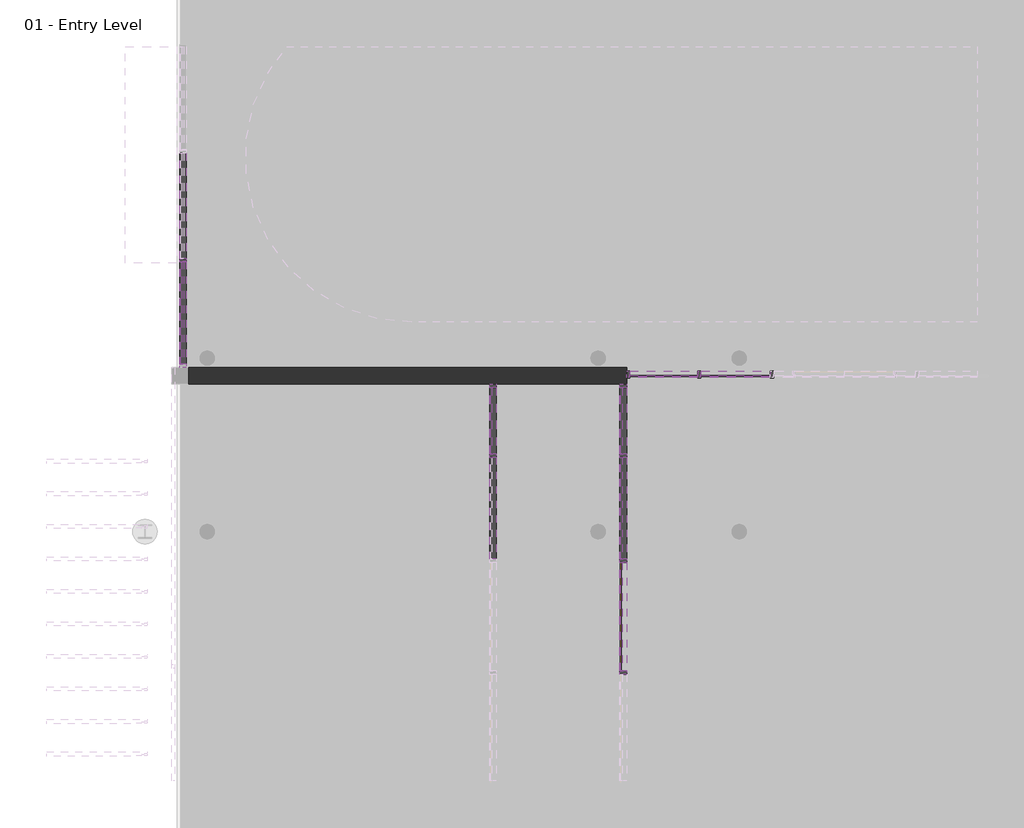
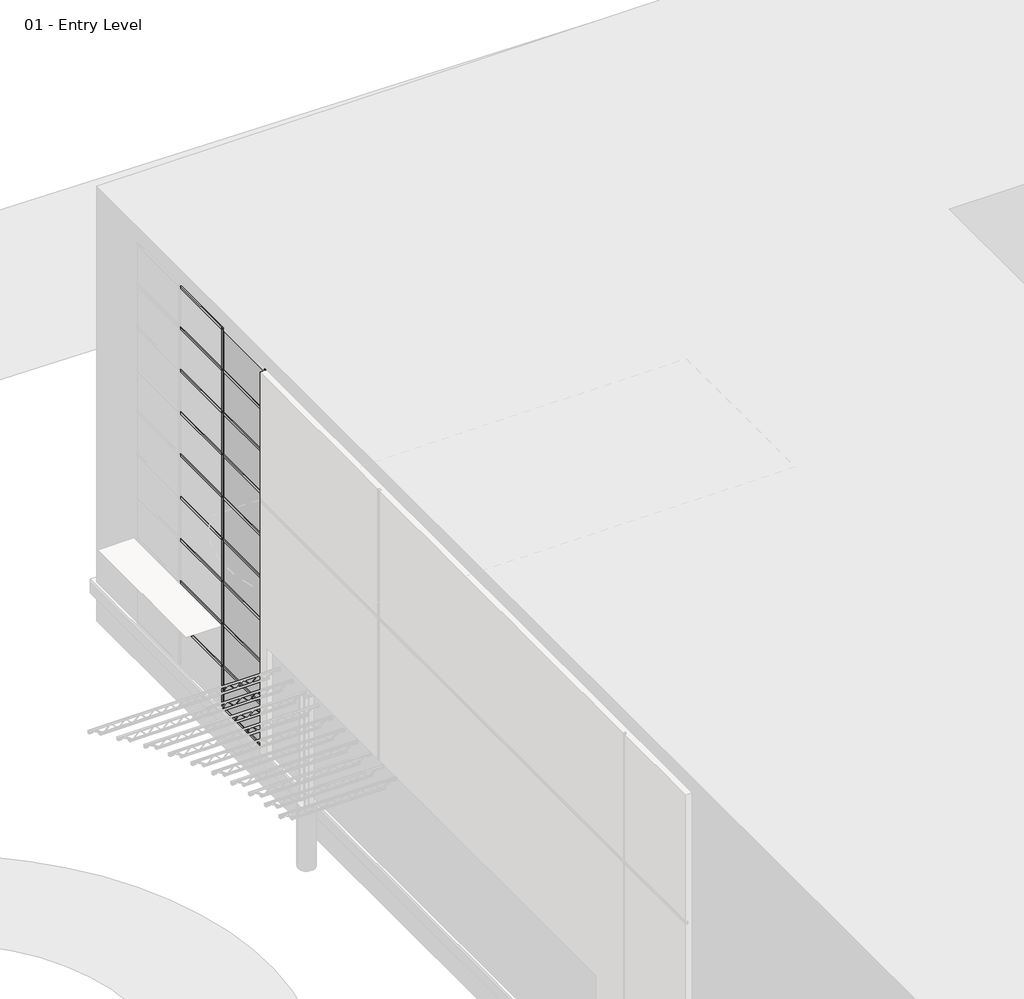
# One storey, part 23 of 35: 92 members, 24 plates, 1 door, 1 wall.
"""IFC4 building model written with IfcOpenShell, lengths in millimetres."""

from ifc_helpers import new_model, si_unit, origin, place, context, project, spatial, faceted_brep, transform, mapped, element, save
from components import curtain_wall_dbl_glass_curtain_wall_dbl_glass_d7d74fe3, member_2b49869a, member_75074519, member_18e22e2d, member_9193c932, member_391b434c, member_9e90ae50, member_71eb4692, member_a1da5be3, member_995c57f6, member_4a2c27e2, member_6186cc23, member_5d67b9fc, member_a50b3cda, member_c327c56d, member_0a82c195, member_a6658832, member_b37ae9b7, member_f95d5bf5, member_ec52078f, member_cc8ff548, member_d5dacedd, member_7bb4584e, member_8f0333f2, member_bc6ee0d3, member_2fd083e0, member_d74167de, system_panel_glazed_652821f2, system_panel_glazed_968bda60, system_panel_glazed_6afda307, system_panel_glazed_f5a86650, system_panel_glazed_d3a4a7cd, system_panel_glazed_76019dd7, system_panel_glazed_96e4dd87, system_panel_glazed_56110c51, system_panel_glazed_ea10912d, system_panel_glazed_266ebcb8, system_panel_glazed_6ed60089, system_panel_glazed_c092dd15, system_panel_glazed_f97b1054, system_panel_glazed_06504d0b, system_panel_solid_8d134956, system_panel_solid_ac74ffd1

model = new_model("IFC4")

# Units and contexts
model_context = context("Model", 3, world=origin())
ifc_project = project(units=[si_unit("LENGTHUNIT", "METRE", prefix="MILLI")], contexts=[model_context])

# Site, building, storey
site = spatial("IfcSite", under=ifc_project)
building = spatial("IfcBuilding", under=site)
storey = spatial("IfcBuildingStorey", under=building, Name="01 - Entry Level", Elevation=0.0)

# Door
placement = place(None, origin())
curtain_wall_dbl_glass_curtain_wall_dbl_glass_shape = curtain_wall_dbl_glass_curtain_wall_dbl_glass_d7d74fe3(model_context)
element("IfcDoor", 1, ObjectType="Curtain Wall Dbl Glass : Curtain Wall Dbl Glass", at=placement, inside=storey, context=model_context, shape_type="MappedRepresentation", body=[
    mapped(curtain_wall_dbl_glass_curtain_wall_dbl_glass_shape, transform((8421.0207476, 41071.725, 0.0), x_axis=(0.0, 1.0, 0.0), y_axis=(-1.0, 0.0, 0.0), z_axis=(0.0, 0.0, 1.0))),
])

# Members
member_shape = member_2b49869a(model_context)
element("IfcMember", 2, ObjectType="Rectangular Mullion : 2.5\" x 5\" rectangular", at=placement, inside=storey, context=model_context, shape_type="MappedRepresentation", body=[
    mapped(member_shape, transform((178.7207476, 47748.75, 9753.6), x_axis=(0.0, -1.0, 0.0), y_axis=(-1.0, 0.0, 0.0), z_axis=(0.0, 0.0, -1.0))),
])
member_2_shape = member_75074519(model_context)
element("IfcMember", 3, ObjectType="Rectangular Mullion : 2.5\" x 5\" rectangular", at=placement, inside=storey, context=model_context, shape_type="MappedRepresentation", body=[
    mapped(member_2_shape, transform((178.7207476, 45735.8, 9753.6), x_axis=(0.0, -1.0, 0.0), y_axis=(-1.0, 0.0, 0.0), z_axis=(0.0, 0.0, -1.0))),
])
member_3_shape = member_18e22e2d(model_context)
element("IfcMember", 4, ObjectType="Rectangular Mullion : 2.5\" x 5\" rectangular", at=placement, inside=storey, context=model_context, shape_type="MappedRepresentation", body=[
    mapped(member_3_shape, transform((11204.1350333, 45608.8, 2438.4), x_axis=(-1.0, 0.0, 0.0), y_axis=(0.0, 1.0, 0.0), z_axis=(0.0, 0.0, -1.0))),
])
element("IfcMember", 5, ObjectType="Rectangular Mullion : 2.5\" x 5\" rectangular", at=placement, inside=storey, context=model_context, shape_type="MappedRepresentation", body=[
    mapped(member_3_shape, transform((9844.3278905, 45608.8, 2438.4), x_axis=(-1.0, 0.0, 0.0), y_axis=(0.0, 1.0, 0.0), z_axis=(0.0, 0.0, -1.0))),
])
element("IfcMember", 6, ObjectType="Rectangular Mullion : 2.5\" x 5\" rectangular", at=placement, inside=storey, context=model_context, shape_type="MappedRepresentation", body=[
    mapped(member_3_shape, transform((5982.6207476, 44087.975, 2438.4), x_axis=(0.0, 1.0, 0.0), y_axis=(1.0, 0.0, 0.0), z_axis=(0.0, 0.0, -1.0))),
])
element("IfcMember", 7, ObjectType="Rectangular Mullion : 2.5\" x 5\" rectangular", at=placement, inside=storey, context=model_context, shape_type="MappedRepresentation", body=[
    mapped(member_3_shape, transform((8421.0207476, 40023.975, 2438.4), x_axis=(0.0, 1.0, 0.0), y_axis=(1.0, 0.0, 0.0), z_axis=(0.0, 0.0, -1.0))),
])
element("IfcMember", 8, ObjectType="Rectangular Mullion : 2.5\" x 5\" rectangular", at=placement, inside=storey, context=model_context, shape_type="MappedRepresentation", body=[
    mapped(member_3_shape, transform((8421.0207476, 42119.475, 2438.4), x_axis=(0.0, 1.0, 0.0), y_axis=(1.0, 0.0, 0.0), z_axis=(0.0, 0.0, -1.0))),
])
element("IfcMember", 9, ObjectType="Rectangular Mullion : 2.5\" x 5\" rectangular", at=placement, inside=storey, context=model_context, shape_type="MappedRepresentation", body=[
    mapped(member_3_shape, transform((8421.0207476, 44087.975, 2438.4), x_axis=(0.0, 1.0, 0.0), y_axis=(1.0, 0.0, 0.0), z_axis=(0.0, 0.0, -1.0))),
])
member_4_shape = member_9193c932(model_context)
element("IfcMember", 10, ObjectType="Rectangular Mullion : 2.5\" x 5\" rectangular", at=placement, inside=storey, context=model_context, shape_type="MappedRepresentation", body=[
    mapped(member_4_shape, transform((8484.5207476, 45608.8, 2438.4), x_axis=(-1.0, 0.0, 0.0), y_axis=(0.0, 1.0, 0.0), z_axis=(0.0, 0.0, -1.0))),
])
element("IfcMember", 11, ObjectType="Rectangular Mullion : 2.5\" x 5\" rectangular", at=placement, inside=storey, context=model_context, shape_type="MappedRepresentation", body=[
    mapped(member_4_shape, transform((5982.6207476, 45427.825, 2438.4), x_axis=(0.0, 1.0, 0.0), y_axis=(1.0, 0.0, 0.0), z_axis=(0.0, 0.0, -1.0))),
])
element("IfcMember", 12, ObjectType="Rectangular Mullion : 2.5\" x 5\" rectangular", at=placement, inside=storey, context=model_context, shape_type="MappedRepresentation", body=[
    mapped(member_4_shape, transform((8421.0207476, 45427.825, 2438.4), x_axis=(0.0, 1.0, 0.0), y_axis=(1.0, 0.0, 0.0), z_axis=(0.0, 0.0, -1.0))),
])
member_5_shape = member_391b434c(model_context)
element("IfcMember", 13, ObjectType="Rectangular Mullion : 2.5\" x 5\" rectangular", at=placement, inside=storey, context=model_context, shape_type="MappedRepresentation", body=[
    mapped(member_5_shape, transform((178.7207476, 47780.5, 10972.8), x_axis=(0.0, 0.0, 1.0), y_axis=(-1.0, 0.0, 0.0), z_axis=(0.0, -1.0, 0.0))),
])
member_6_shape = member_9e90ae50(model_context)
element("IfcMember", 14, ObjectType="Rectangular Mullion : 2.5\" x 5\" rectangular", at=placement, inside=storey, context=model_context, shape_type="MappedRepresentation", body=[
    mapped(member_6_shape, transform((178.7207476, 47780.5, 1219.2), x_axis=(0.0, 0.0, 1.0), y_axis=(-1.0, 0.0, 0.0), z_axis=(0.0, -1.0, 0.0))),
])
element("IfcMember", 15, ObjectType="Rectangular Mullion : 2.5\" x 5\" rectangular", at=placement, inside=storey, context=model_context, shape_type="MappedRepresentation", body=[
    mapped(member_6_shape, transform((178.7207476, 47780.5, 2438.4), x_axis=(0.0, 0.0, 1.0), y_axis=(-1.0, 0.0, 0.0), z_axis=(0.0, -1.0, 0.0))),
])
element("IfcMember", 16, ObjectType="Rectangular Mullion : 2.5\" x 5\" rectangular", at=placement, inside=storey, context=model_context, shape_type="MappedRepresentation", body=[
    mapped(member_6_shape, transform((178.7207476, 47780.5, 3657.6), x_axis=(0.0, 0.0, 1.0), y_axis=(-1.0, 0.0, 0.0), z_axis=(0.0, -1.0, 0.0))),
])
element("IfcMember", 17, ObjectType="Rectangular Mullion : 2.5\" x 5\" rectangular", at=placement, inside=storey, context=model_context, shape_type="MappedRepresentation", body=[
    mapped(member_6_shape, transform((178.7207476, 47780.5, 4876.8), x_axis=(0.0, 0.0, 1.0), y_axis=(-1.0, 0.0, 0.0), z_axis=(0.0, -1.0, 0.0))),
])
element("IfcMember", 18, ObjectType="Rectangular Mullion : 2.5\" x 5\" rectangular", at=placement, inside=storey, context=model_context, shape_type="MappedRepresentation", body=[
    mapped(member_6_shape, transform((178.7207476, 47780.5, 6096.0), x_axis=(0.0, 0.0, 1.0), y_axis=(-1.0, 0.0, 0.0), z_axis=(0.0, -1.0, 0.0))),
])
element("IfcMember", 19, ObjectType="Rectangular Mullion : 2.5\" x 5\" rectangular", at=placement, inside=storey, context=model_context, shape_type="MappedRepresentation", body=[
    mapped(member_6_shape, transform((178.7207476, 47780.5, 7315.2), x_axis=(0.0, 0.0, 1.0), y_axis=(-1.0, 0.0, 0.0), z_axis=(0.0, -1.0, 0.0))),
])
element("IfcMember", 20, ObjectType="Rectangular Mullion : 2.5\" x 5\" rectangular", at=placement, inside=storey, context=model_context, shape_type="MappedRepresentation", body=[
    mapped(member_6_shape, transform((178.7207476, 47780.5, 8534.4), x_axis=(0.0, 0.0, 1.0), y_axis=(-1.0, 0.0, 0.0), z_axis=(0.0, -1.0, 0.0))),
])
element("IfcMember", 21, ObjectType="Rectangular Mullion : 2.5\" x 5\" rectangular", at=placement, inside=storey, context=model_context, shape_type="MappedRepresentation", body=[
    mapped(member_6_shape, transform((178.7207476, 47780.5, 9753.6), x_axis=(0.0, 0.0, 1.0), y_axis=(-1.0, 0.0, 0.0), z_axis=(0.0, -1.0, 0.0))),
])
element("IfcMember", 22, ObjectType="Rectangular Mullion : 2.5\" x 5\" rectangular", at=placement, inside=storey, context=model_context, shape_type="MappedRepresentation", body=[
    mapped(member_shape, transform((178.7207476, 47748.75, 0.0), x_axis=(0.0, -1.0, 0.0), y_axis=(-1.0, 0.0, 0.0), z_axis=(0.0, 0.0, -1.0))),
])
element("IfcMember", 23, ObjectType="Rectangular Mullion : 2.5\" x 5\" rectangular", at=placement, inside=storey, context=model_context, shape_type="MappedRepresentation", body=[
    mapped(member_shape, transform((178.7207476, 47748.75, 1219.2), x_axis=(0.0, -1.0, 0.0), y_axis=(-1.0, 0.0, 0.0), z_axis=(0.0, 0.0, -1.0))),
])
element("IfcMember", 24, ObjectType="Rectangular Mullion : 2.5\" x 5\" rectangular", at=placement, inside=storey, context=model_context, shape_type="MappedRepresentation", body=[
    mapped(member_shape, transform((178.7207476, 47748.75, 2438.4), x_axis=(0.0, -1.0, 0.0), y_axis=(-1.0, 0.0, 0.0), z_axis=(0.0, 0.0, -1.0))),
])
element("IfcMember", 25, ObjectType="Rectangular Mullion : 2.5\" x 5\" rectangular", at=placement, inside=storey, context=model_context, shape_type="MappedRepresentation", body=[
    mapped(member_shape, transform((178.7207476, 47748.75, 3657.6), x_axis=(0.0, -1.0, 0.0), y_axis=(-1.0, 0.0, 0.0), z_axis=(0.0, 0.0, -1.0))),
])
element("IfcMember", 26, ObjectType="Rectangular Mullion : 2.5\" x 5\" rectangular", at=placement, inside=storey, context=model_context, shape_type="MappedRepresentation", body=[
    mapped(member_shape, transform((178.7207476, 47748.75, 4876.8), x_axis=(0.0, -1.0, 0.0), y_axis=(-1.0, 0.0, 0.0), z_axis=(0.0, 0.0, -1.0))),
])
element("IfcMember", 27, ObjectType="Rectangular Mullion : 2.5\" x 5\" rectangular", at=placement, inside=storey, context=model_context, shape_type="MappedRepresentation", body=[
    mapped(member_shape, transform((178.7207476, 47748.75, 6096.0), x_axis=(0.0, -1.0, 0.0), y_axis=(-1.0, 0.0, 0.0), z_axis=(0.0, 0.0, -1.0))),
])
element("IfcMember", 28, ObjectType="Rectangular Mullion : 2.5\" x 5\" rectangular", at=placement, inside=storey, context=model_context, shape_type="MappedRepresentation", body=[
    mapped(member_shape, transform((178.7207476, 47748.75, 7315.2), x_axis=(0.0, -1.0, 0.0), y_axis=(-1.0, 0.0, 0.0), z_axis=(0.0, 0.0, -1.0))),
])
element("IfcMember", 29, ObjectType="Rectangular Mullion : 2.5\" x 5\" rectangular", at=placement, inside=storey, context=model_context, shape_type="MappedRepresentation", body=[
    mapped(member_shape, transform((178.7207476, 47748.75, 8534.4), x_axis=(0.0, -1.0, 0.0), y_axis=(-1.0, 0.0, 0.0), z_axis=(0.0, 0.0, -1.0))),
])
element("IfcMember", 30, ObjectType="Rectangular Mullion : 2.5\" x 5\" rectangular", at=placement, inside=storey, context=model_context, shape_type="MappedRepresentation", body=[
    mapped(member_shape, transform((5982.6207476, 44087.975, 0.0), x_axis=(0.0, 1.0, 0.0), y_axis=(1.0, 0.0, 0.0), z_axis=(0.0, 0.0, -1.0))),
])
element("IfcMember", 31, ObjectType="Rectangular Mullion : 2.5\" x 5\" rectangular", at=placement, inside=storey, context=model_context, shape_type="MappedRepresentation", body=[
    mapped(member_shape, transform((8421.0207476, 42119.475, 0.0), x_axis=(0.0, 1.0, 0.0), y_axis=(1.0, 0.0, 0.0), z_axis=(0.0, 0.0, -1.0))),
])
element("IfcMember", 32, ObjectType="Rectangular Mullion : 2.5\" x 5\" rectangular", at=placement, inside=storey, context=model_context, shape_type="MappedRepresentation", body=[
    mapped(member_shape, transform((8421.0207476, 44087.975, 0.0), x_axis=(0.0, 1.0, 0.0), y_axis=(1.0, 0.0, 0.0), z_axis=(0.0, 0.0, -1.0))),
])
element("IfcMember", 33, ObjectType="Rectangular Mullion : 2.5\" x 5\" rectangular", at=placement, inside=storey, context=model_context, shape_type="MappedRepresentation", body=[
    mapped(member_2_shape, transform((5982.6207476, 45427.825, 0.0), x_axis=(0.0, 1.0, 0.0), y_axis=(1.0, 0.0, 0.0), z_axis=(0.0, 0.0, -1.0))),
])
element("IfcMember", 34, ObjectType="Rectangular Mullion : 2.5\" x 5\" rectangular", at=placement, inside=storey, context=model_context, shape_type="MappedRepresentation", body=[
    mapped(member_2_shape, transform((8421.0207476, 45427.825, 0.0), x_axis=(0.0, 1.0, 0.0), y_axis=(1.0, 0.0, 0.0), z_axis=(0.0, 0.0, -1.0))),
])
element("IfcMember", 35, ObjectType="Rectangular Mullion : 2.5\" x 5\" rectangular", at=placement, inside=storey, context=model_context, shape_type="MappedRepresentation", body=[
    mapped(member_2_shape, transform((178.7207476, 45735.8, 2438.4), x_axis=(0.0, -1.0, 0.0), y_axis=(-1.0, 0.0, 0.0), z_axis=(0.0, 0.0, -1.0))),
])
element("IfcMember", 36, ObjectType="Rectangular Mullion : 2.5\" x 5\" rectangular", at=placement, inside=storey, context=model_context, shape_type="MappedRepresentation", body=[
    mapped(member_2_shape, transform((178.7207476, 45735.8, 3657.6), x_axis=(0.0, -1.0, 0.0), y_axis=(-1.0, 0.0, 0.0), z_axis=(0.0, 0.0, -1.0))),
])
element("IfcMember", 37, ObjectType="Rectangular Mullion : 2.5\" x 5\" rectangular", at=placement, inside=storey, context=model_context, shape_type="MappedRepresentation", body=[
    mapped(member_2_shape, transform((178.7207476, 45735.8, 4876.8), x_axis=(0.0, -1.0, 0.0), y_axis=(-1.0, 0.0, 0.0), z_axis=(0.0, 0.0, -1.0))),
])
element("IfcMember", 38, ObjectType="Rectangular Mullion : 2.5\" x 5\" rectangular", at=placement, inside=storey, context=model_context, shape_type="MappedRepresentation", body=[
    mapped(member_2_shape, transform((178.7207476, 45735.8, 6096.0), x_axis=(0.0, -1.0, 0.0), y_axis=(-1.0, 0.0, 0.0), z_axis=(0.0, 0.0, -1.0))),
])
element("IfcMember", 39, ObjectType="Rectangular Mullion : 2.5\" x 5\" rectangular", at=placement, inside=storey, context=model_context, shape_type="MappedRepresentation", body=[
    mapped(member_2_shape, transform((178.7207476, 45735.8, 7315.2), x_axis=(0.0, -1.0, 0.0), y_axis=(-1.0, 0.0, 0.0), z_axis=(0.0, 0.0, -1.0))),
])
element("IfcMember", 40, ObjectType="Rectangular Mullion : 2.5\" x 5\" rectangular", at=placement, inside=storey, context=model_context, shape_type="MappedRepresentation", body=[
    mapped(member_2_shape, transform((178.7207476, 45735.8, 8534.4), x_axis=(0.0, -1.0, 0.0), y_axis=(-1.0, 0.0, 0.0), z_axis=(0.0, 0.0, -1.0))),
])
element("IfcMember", 41, ObjectType="Rectangular Mullion : 2.5\" x 5\" rectangular", at=placement, inside=storey, context=model_context, shape_type="MappedRepresentation", body=[
    mapped(member_shape, transform((8421.0207476, 40023.975, 0.0), x_axis=(0.0, 1.0, 0.0), y_axis=(1.0, 0.0, 0.0), z_axis=(0.0, 0.0, -1.0))),
])
member_7_shape = member_71eb4692(model_context)
element("IfcMember", 42, ObjectType="Rectangular Mullion : 2.5\" x 5\" rectangular", at=placement, inside=storey, context=model_context, shape_type="MappedRepresentation", body=[
    mapped(member_7_shape, transform((5982.6207476, 45364.325, 3403.6), x_axis=(0.0, 0.0, 1.0), y_axis=(1.0, 0.0, 0.0), z_axis=(0.0, 1.0, 0.0))),
])
element("IfcMember", 43, ObjectType="Rectangular Mullion : 2.5\" x 5\" rectangular", at=placement, inside=storey, context=model_context, shape_type="MappedRepresentation", body=[
    mapped(member_7_shape, transform((8421.0207476, 45364.325, 3403.6), x_axis=(0.0, 0.0, 1.0), y_axis=(1.0, 0.0, 0.0), z_axis=(0.0, 1.0, 0.0))),
])
element("IfcMember", 44, ObjectType="Rectangular Mullion : 2.5\" x 5\" rectangular", at=placement, inside=storey, context=model_context, shape_type="MappedRepresentation", body=[
    mapped(member_7_shape, transform((5982.6207476, 44119.725, 0.0), x_axis=(0.0, 0.0, -1.0), y_axis=(1.0, 0.0, 0.0), z_axis=(0.0, -1.0, 0.0))),
])
element("IfcMember", 45, ObjectType="Rectangular Mullion : 2.5\" x 5\" rectangular", at=placement, inside=storey, context=model_context, shape_type="MappedRepresentation", body=[
    mapped(member_7_shape, transform((8421.0207476, 44119.725, 0.0), x_axis=(0.0, 0.0, -1.0), y_axis=(1.0, 0.0, 0.0), z_axis=(0.0, -1.0, 0.0))),
])
member_8_shape = member_a1da5be3(model_context)
element("IfcMember", 46, ObjectType="Rectangular Mullion : 2.5\" x 5\" rectangular", at=placement, inside=storey, context=model_context, shape_type="MappedRepresentation", body=[
    mapped(member_8_shape, transform((5982.6207476, 45364.325, 1219.2), x_axis=(0.0, 0.0, 1.0), y_axis=(1.0, 0.0, 0.0), z_axis=(0.0, 1.0, 0.0))),
])
element("IfcMember", 47, ObjectType="Rectangular Mullion : 2.5\" x 5\" rectangular", at=placement, inside=storey, context=model_context, shape_type="MappedRepresentation", body=[
    mapped(member_8_shape, transform((5982.6207476, 45364.325, 2438.4), x_axis=(0.0, 0.0, 1.0), y_axis=(1.0, 0.0, 0.0), z_axis=(0.0, 1.0, 0.0))),
])
element("IfcMember", 48, ObjectType="Rectangular Mullion : 2.5\" x 5\" rectangular", at=placement, inside=storey, context=model_context, shape_type="MappedRepresentation", body=[
    mapped(member_8_shape, transform((8421.0207476, 45364.325, 1219.2), x_axis=(0.0, 0.0, 1.0), y_axis=(1.0, 0.0, 0.0), z_axis=(0.0, 1.0, 0.0))),
])
element("IfcMember", 49, ObjectType="Rectangular Mullion : 2.5\" x 5\" rectangular", at=placement, inside=storey, context=model_context, shape_type="MappedRepresentation", body=[
    mapped(member_8_shape, transform((8421.0207476, 45364.325, 2438.4), x_axis=(0.0, 0.0, 1.0), y_axis=(1.0, 0.0, 0.0), z_axis=(0.0, 1.0, 0.0))),
])
member_9_shape = member_995c57f6(model_context)
element("IfcMember", 50, ObjectType="Rectangular Mullion : 2.5\" x 5\" rectangular", at=placement, inside=storey, context=model_context, shape_type="MappedRepresentation", body=[
    mapped(member_9_shape, transform((178.7207476, 47717.0, 0.0), x_axis=(0.0, 0.0, -1.0), y_axis=(-1.0, 0.0, 0.0), z_axis=(0.0, 1.0, 0.0))),
])
member_10_shape = member_4a2c27e2(model_context)
element("IfcMember", 51, ObjectType="Rectangular Mullion : 2.5\" x 5\" rectangular", at=placement, inside=storey, context=model_context, shape_type="MappedRepresentation", body=[
    mapped(member_10_shape, transform((178.7207476, 45799.3, 1219.2), x_axis=(0.0, 0.0, 1.0), y_axis=(-1.0, 0.0, 0.0), z_axis=(0.0, -1.0, 0.0))),
])
element("IfcMember", 52, ObjectType="Rectangular Mullion : 2.5\" x 5\" rectangular", at=placement, inside=storey, context=model_context, shape_type="MappedRepresentation", body=[
    mapped(member_10_shape, transform((178.7207476, 45799.3, 2438.4), x_axis=(0.0, 0.0, 1.0), y_axis=(-1.0, 0.0, 0.0), z_axis=(0.0, -1.0, 0.0))),
])
element("IfcMember", 53, ObjectType="Rectangular Mullion : 2.5\" x 5\" rectangular", at=placement, inside=storey, context=model_context, shape_type="MappedRepresentation", body=[
    mapped(member_10_shape, transform((178.7207476, 45799.3, 3657.6), x_axis=(0.0, 0.0, 1.0), y_axis=(-1.0, 0.0, 0.0), z_axis=(0.0, -1.0, 0.0))),
])
element("IfcMember", 54, ObjectType="Rectangular Mullion : 2.5\" x 5\" rectangular", at=placement, inside=storey, context=model_context, shape_type="MappedRepresentation", body=[
    mapped(member_10_shape, transform((178.7207476, 45799.3, 4876.8), x_axis=(0.0, 0.0, 1.0), y_axis=(-1.0, 0.0, 0.0), z_axis=(0.0, -1.0, 0.0))),
])
element("IfcMember", 55, ObjectType="Rectangular Mullion : 2.5\" x 5\" rectangular", at=placement, inside=storey, context=model_context, shape_type="MappedRepresentation", body=[
    mapped(member_10_shape, transform((178.7207476, 45799.3, 6096.0), x_axis=(0.0, 0.0, 1.0), y_axis=(-1.0, 0.0, 0.0), z_axis=(0.0, -1.0, 0.0))),
])
element("IfcMember", 56, ObjectType="Rectangular Mullion : 2.5\" x 5\" rectangular", at=placement, inside=storey, context=model_context, shape_type="MappedRepresentation", body=[
    mapped(member_10_shape, transform((178.7207476, 45799.3, 7315.2), x_axis=(0.0, 0.0, 1.0), y_axis=(-1.0, 0.0, 0.0), z_axis=(0.0, -1.0, 0.0))),
])
element("IfcMember", 57, ObjectType="Rectangular Mullion : 2.5\" x 5\" rectangular", at=placement, inside=storey, context=model_context, shape_type="MappedRepresentation", body=[
    mapped(member_10_shape, transform((178.7207476, 45799.3, 8534.4), x_axis=(0.0, 0.0, 1.0), y_axis=(-1.0, 0.0, 0.0), z_axis=(0.0, -1.0, 0.0))),
])
element("IfcMember", 58, ObjectType="Rectangular Mullion : 2.5\" x 5\" rectangular", at=placement, inside=storey, context=model_context, shape_type="MappedRepresentation", body=[
    mapped(member_10_shape, transform((178.7207476, 45799.3, 9753.6), x_axis=(0.0, 0.0, 1.0), y_axis=(-1.0, 0.0, 0.0), z_axis=(0.0, -1.0, 0.0))),
])
member_11_shape = member_6186cc23(model_context)
element("IfcMember", 59, ObjectType="Rectangular Mullion : 2.5\" x 5\" rectangular", at=placement, inside=storey, context=model_context, shape_type="MappedRepresentation", body=[
    mapped(member_11_shape, transform((11204.1350333, 45608.8, 0.0), x_axis=(-1.0, 0.0, 0.0), y_axis=(0.0, 1.0, 0.0), z_axis=(0.0, 0.0, -1.0))),
])
member_12_shape = member_5d67b9fc(model_context)
element("IfcMember", 60, ObjectType="Rectangular Mullion : 2.5\" x 5\" rectangular", at=placement, inside=storey, context=model_context, shape_type="MappedRepresentation", body=[
    mapped(member_12_shape, transform((8421.0207476, 40023.975, 2165.35), x_axis=(0.0, 1.0, 0.0), y_axis=(1.0, 0.0, 0.0), z_axis=(0.0, 0.0, -1.0))),
])
element("IfcMember", 61, ObjectType="Rectangular Mullion : 2.5\" x 5\" rectangular", at=placement, inside=storey, context=model_context, shape_type="MappedRepresentation", body=[
    mapped(member_12_shape, transform((8421.0207476, 42119.475, 2165.35), x_axis=(0.0, 1.0, 0.0), y_axis=(1.0, 0.0, 0.0), z_axis=(0.0, 0.0, -1.0))),
])
member_13_shape = member_a50b3cda(model_context)
element("IfcMember", 62, ObjectType="Rectangular Mullion : 2.5\" x 5\" rectangular", at=placement, inside=storey, context=model_context, shape_type="MappedRepresentation", body=[
    mapped(member_13_shape, transform((8484.5207476, 45608.8, 0.0), x_axis=(-1.0, 0.0, 0.0), y_axis=(0.0, 1.0, 0.0), z_axis=(0.0, 0.0, -1.0))),
])
member_14_shape = member_c327c56d(model_context)
element("IfcMember", 63, ObjectType="Rectangular Mullion : 2.5\" x 5\" rectangular", at=placement, inside=storey, context=model_context, shape_type="MappedRepresentation", body=[
    mapped(member_14_shape, transform((8484.5207476, 45608.8, 2165.35), x_axis=(-1.0, 0.0, 0.0), y_axis=(0.0, 1.0, 0.0), z_axis=(0.0, 0.0, -1.0))),
])
element("IfcMember", 64, ObjectType="Rectangular Mullion : 2.5\" x 5\" rectangular", at=placement, inside=storey, context=model_context, shape_type="MappedRepresentation", body=[
    mapped(member_14_shape, transform((5982.6207476, 45427.825, 2165.35), x_axis=(0.0, 1.0, 0.0), y_axis=(1.0, 0.0, 0.0), z_axis=(0.0, 0.0, -1.0))),
])
element("IfcMember", 65, ObjectType="Rectangular Mullion : 2.5\" x 5\" rectangular", at=placement, inside=storey, context=model_context, shape_type="MappedRepresentation", body=[
    mapped(member_14_shape, transform((8421.0207476, 45427.825, 2165.35), x_axis=(0.0, 1.0, 0.0), y_axis=(1.0, 0.0, 0.0), z_axis=(0.0, 0.0, -1.0))),
])
element("IfcMember", 66, ObjectType="Rectangular Mullion : 2.5\" x 5\" rectangular", at=placement, inside=storey, context=model_context, shape_type="MappedRepresentation", body=[
    mapped(member_11_shape, transform((9844.3278905, 45608.8, 0.0), x_axis=(-1.0, 0.0, 0.0), y_axis=(0.0, 1.0, 0.0), z_axis=(0.0, 0.0, -1.0))),
])
element("IfcMember", 67, ObjectType="Rectangular Mullion : 2.5\" x 5\" rectangular", at=placement, inside=storey, context=model_context, shape_type="MappedRepresentation", body=[
    mapped(member_12_shape, transform((9844.3278905, 45608.8, 2165.35), x_axis=(-1.0, 0.0, 0.0), y_axis=(0.0, 1.0, 0.0), z_axis=(0.0, 0.0, -1.0))),
])
element("IfcMember", 68, ObjectType="Rectangular Mullion : 2.5\" x 5\" rectangular", at=placement, inside=storey, context=model_context, shape_type="MappedRepresentation", body=[
    mapped(member_12_shape, transform((5982.6207476, 44087.975, 2165.35), x_axis=(0.0, 1.0, 0.0), y_axis=(1.0, 0.0, 0.0), z_axis=(0.0, 0.0, -1.0))),
])
element("IfcMember", 69, ObjectType="Rectangular Mullion : 2.5\" x 5\" rectangular", at=placement, inside=storey, context=model_context, shape_type="MappedRepresentation", body=[
    mapped(member_12_shape, transform((8421.0207476, 44087.975, 2165.35), x_axis=(0.0, 1.0, 0.0), y_axis=(1.0, 0.0, 0.0), z_axis=(0.0, 0.0, -1.0))),
])
member_15_shape = member_0a82c195(model_context)
element("IfcMember", 70, ObjectType="Rectangular Mullion : 2.5\" x 5\" rectangular", at=placement, inside=storey, context=model_context, shape_type="MappedRepresentation", body=[
    mapped(member_15_shape, transform((8421.0207476, 42087.725, 3403.6), x_axis=(0.0, 0.0, 1.0), y_axis=(1.0, 0.0, 0.0), z_axis=(0.0, 1.0, 0.0))),
])
member_16_shape = member_a6658832(model_context)
element("IfcMember", 71, ObjectType="Rectangular Mullion : 2.5\" x 5\" rectangular", at=placement, inside=storey, context=model_context, shape_type="MappedRepresentation", body=[
    mapped(member_16_shape, transform((5982.6207476, 44056.225, 3403.6), x_axis=(0.0, 0.0, 1.0), y_axis=(1.0, 0.0, 0.0), z_axis=(0.0, 1.0, 0.0))),
])
element("IfcMember", 72, ObjectType="Rectangular Mullion : 2.5\" x 5\" rectangular", at=placement, inside=storey, context=model_context, shape_type="MappedRepresentation", body=[
    mapped(member_16_shape, transform((8421.0207476, 44056.225, 3403.6), x_axis=(0.0, 0.0, 1.0), y_axis=(1.0, 0.0, 0.0), z_axis=(0.0, 1.0, 0.0))),
])
element("IfcMember", 73, ObjectType="Rectangular Mullion : 2.5\" x 5\" rectangular", at=placement, inside=storey, context=model_context, shape_type="MappedRepresentation", body=[
    mapped(member_16_shape, transform((8421.0207476, 42151.225, 0.0), x_axis=(0.0, 0.0, -1.0), y_axis=(1.0, 0.0, 0.0), z_axis=(0.0, -1.0, 0.0))),
])
member_17_shape = member_b37ae9b7(model_context)
element("IfcMember", 74, ObjectType="Rectangular Mullion : 2.5\" x 5\" rectangular", at=placement, inside=storey, context=model_context, shape_type="MappedRepresentation", body=[
    mapped(member_17_shape, transform((5982.6207476, 44056.225, 1219.2), x_axis=(0.0, 0.0, 1.0), y_axis=(1.0, 0.0, 0.0), z_axis=(0.0, 1.0, 0.0))),
])
element("IfcMember", 75, ObjectType="Rectangular Mullion : 2.5\" x 5\" rectangular", at=placement, inside=storey, context=model_context, shape_type="MappedRepresentation", body=[
    mapped(member_17_shape, transform((5982.6207476, 44056.225, 2438.4), x_axis=(0.0, 0.0, 1.0), y_axis=(1.0, 0.0, 0.0), z_axis=(0.0, 1.0, 0.0))),
])
element("IfcMember", 76, ObjectType="Rectangular Mullion : 2.5\" x 5\" rectangular", at=placement, inside=storey, context=model_context, shape_type="MappedRepresentation", body=[
    mapped(member_17_shape, transform((8421.0207476, 44056.225, 1219.2), x_axis=(0.0, 0.0, 1.0), y_axis=(1.0, 0.0, 0.0), z_axis=(0.0, 1.0, 0.0))),
])
element("IfcMember", 77, ObjectType="Rectangular Mullion : 2.5\" x 5\" rectangular", at=placement, inside=storey, context=model_context, shape_type="MappedRepresentation", body=[
    mapped(member_17_shape, transform((8421.0207476, 44056.225, 2438.4), x_axis=(0.0, 0.0, 1.0), y_axis=(1.0, 0.0, 0.0), z_axis=(0.0, 1.0, 0.0))),
])
member_18_shape = member_f95d5bf5(model_context)
element("IfcMember", 78, ObjectType="Rectangular Mullion : 2.5\" x 5\" rectangular", at=placement, inside=storey, context=model_context, shape_type="MappedRepresentation", body=[
    mapped(member_18_shape, transform((8421.0207476, 42087.725, 2438.4), x_axis=(0.0, 0.0, 1.0), y_axis=(1.0, 0.0, 0.0), z_axis=(0.0, 1.0, 0.0))),
])
element("IfcMember", 79, ObjectType="Rectangular Mullion : 2.5\" x 5\" rectangular", at=placement, inside=storey, context=model_context, shape_type="MappedRepresentation", body=[
    mapped(member_18_shape, transform((8421.0207476, 42087.725, 2165.35), x_axis=(0.0, 0.0, 1.0), y_axis=(1.0, 0.0, 0.0), z_axis=(0.0, 1.0, 0.0))),
])
member_19_shape = member_ec52078f(model_context)
element("IfcMember", 80, ObjectType="Rectangular Mullion : 2.5\" x 5\" rectangular", at=placement, inside=storey, context=model_context, shape_type="MappedRepresentation", body=[
    mapped(member_19_shape, transform((5982.6207476, 44087.975, 1219.2), x_axis=(0.0, 1.0, 0.0), y_axis=(1.0, 0.0, 0.0), z_axis=(0.0, 0.0, -1.0))),
])
element("IfcMember", 81, ObjectType="Rectangular Mullion : 2.5\" x 5\" rectangular", at=placement, inside=storey, context=model_context, shape_type="MappedRepresentation", body=[
    mapped(member_19_shape, transform((8421.0207476, 44087.975, 1219.2), x_axis=(0.0, 1.0, 0.0), y_axis=(1.0, 0.0, 0.0), z_axis=(0.0, 0.0, -1.0))),
])
element("IfcMember", 82, ObjectType="Rectangular Mullion : 2.5\" x 5\" rectangular", at=placement, inside=storey, context=model_context, shape_type="MappedRepresentation", body=[
    mapped(member_19_shape, transform((8421.0207476, 40023.975, 1219.2), x_axis=(0.0, 1.0, 0.0), y_axis=(1.0, 0.0, 0.0), z_axis=(0.0, 0.0, -1.0))),
])
element("IfcMember", 83, ObjectType="Rectangular Mullion : 2.5\" x 5\" rectangular", at=placement, inside=storey, context=model_context, shape_type="MappedRepresentation", body=[
    mapped(member_19_shape, transform((8421.0207476, 42119.475, 1219.2), x_axis=(0.0, 1.0, 0.0), y_axis=(1.0, 0.0, 0.0), z_axis=(0.0, 0.0, -1.0))),
])
member_20_shape = member_cc8ff548(model_context)
element("IfcMember", 84, ObjectType="Rectangular Mullion : 2.5\" x 5\" rectangular", at=placement, inside=storey, context=model_context, shape_type="MappedRepresentation", body=[
    mapped(member_20_shape, transform((5982.6207476, 45427.825, 1219.2), x_axis=(0.0, 1.0, 0.0), y_axis=(1.0, 0.0, 0.0), z_axis=(0.0, 0.0, -1.0))),
])
element("IfcMember", 85, ObjectType="Rectangular Mullion : 2.5\" x 5\" rectangular", at=placement, inside=storey, context=model_context, shape_type="MappedRepresentation", body=[
    mapped(member_20_shape, transform((8421.0207476, 45427.825, 1219.2), x_axis=(0.0, 1.0, 0.0), y_axis=(1.0, 0.0, 0.0), z_axis=(0.0, 0.0, -1.0))),
])
member_21_shape = member_d5dacedd(model_context)
element("IfcMember", 86, ObjectType="Rectangular Mullion : 2.5\" x 5\" rectangular", at=placement, inside=storey, context=model_context, shape_type="MappedRepresentation", body=[
    mapped(member_21_shape, transform((8548.0207476, 45608.8, 3403.6), x_axis=(0.0, 0.0, 1.0), y_axis=(0.0, 1.0, 0.0), z_axis=(-1.0, 0.0, 0.0))),
])
element("IfcMember", 87, ObjectType="Rectangular Mullion : 2.5\" x 5\" rectangular", at=placement, inside=storey, context=model_context, shape_type="MappedRepresentation", body=[
    mapped(member_21_shape, transform((9812.5778905, 45608.8, 0.0), x_axis=(0.0, 0.0, -1.0), y_axis=(0.0, 1.0, 0.0), z_axis=(1.0, 0.0, 0.0))),
])
member_22_shape = member_7bb4584e(model_context)
element("IfcMember", 88, ObjectType="Rectangular Mullion : 2.5\" x 5\" rectangular", at=placement, inside=storey, context=model_context, shape_type="MappedRepresentation", body=[
    mapped(member_22_shape, transform((9876.0778905, 45608.8, 3403.6), x_axis=(0.0, 0.0, 1.0), y_axis=(0.0, 1.0, 0.0), z_axis=(-1.0, 0.0, 0.0))),
])
member_23_shape = member_8f0333f2(model_context)
element("IfcMember", 89, ObjectType="Rectangular Mullion : 2.5\" x 5\" rectangular", at=placement, inside=storey, context=model_context, shape_type="MappedRepresentation", body=[
    mapped(member_23_shape, transform((11235.8850333, 45608.8, 3403.6), x_axis=(0.0, 0.0, 1.0), y_axis=(0.0, 1.0, 0.0), z_axis=(-1.0, 0.0, 0.0))),
])
element("IfcMember", 90, ObjectType="Rectangular Mullion : 2.5\" x 5\" rectangular", at=placement, inside=storey, context=model_context, shape_type="MappedRepresentation", body=[
    mapped(member_22_shape, transform((11172.3850333, 45608.8, 0.0), x_axis=(0.0, 0.0, -1.0), y_axis=(0.0, 1.0, 0.0), z_axis=(1.0, 0.0, 0.0))),
])
member_24_shape = member_bc6ee0d3(model_context)
element("IfcMember", 91, ObjectType="Rectangular Mullion : 2.5\" x 5\" rectangular", at=placement, inside=storey, context=model_context, shape_type="MappedRepresentation", body=[
    mapped(member_24_shape, transform((8548.0207476, 45608.8, 2438.4), x_axis=(0.0, 0.0, 1.0), y_axis=(0.0, 1.0, 0.0), z_axis=(-1.0, 0.0, 0.0))),
])
member_25_shape = member_2fd083e0(model_context)
element("IfcMember", 92, ObjectType="Rectangular Mullion : 2.5\" x 5\" rectangular", at=placement, inside=storey, context=model_context, shape_type="MappedRepresentation", body=[
    mapped(member_25_shape, transform((9876.0778905, 45608.8, 2438.4), x_axis=(0.0, 0.0, 1.0), y_axis=(0.0, 1.0, 0.0), z_axis=(-1.0, 0.0, 0.0))),
])
member_26_shape = member_d74167de(model_context)
element("IfcMember", 93, ObjectType="Rectangular Mullion : 2.5\" x 5\" rectangular", at=placement, inside=storey, context=model_context, shape_type="MappedRepresentation", body=[
    mapped(member_26_shape, transform((11615.0707476, 45608.8, 2438.4), x_axis=(0.0, 0.0, 1.0), y_axis=(0.0, 1.0, 0.0), z_axis=(-1.0, 0.0, 0.0))),
])

# Plates
system_panel_glazed_shape = system_panel_glazed_652821f2(model_context)
element("IfcPlate", 94, ObjectType="System Panel : Glazed", at=placement, inside=storey, context=model_context, shape_type="MappedRepresentation", body=[
    mapped(system_panel_glazed_shape, transform((5982.6207476, 44742.025, 63.5), x_axis=(0.0, 1.0, 0.0), y_axis=(-1.0, 0.0, 0.0), z_axis=(0.0, 0.0, 1.0))),
])
element("IfcPlate", 95, ObjectType="System Panel : Glazed", at=placement, inside=storey, context=model_context, shape_type="MappedRepresentation", body=[
    mapped(system_panel_glazed_shape, transform((8421.0207476, 44742.025, 63.5), x_axis=(0.0, 1.0, 0.0), y_axis=(-1.0, 0.0, 0.0), z_axis=(0.0, 0.0, 1.0))),
])
system_panel_glazed_2_shape = system_panel_glazed_968bda60(model_context)
element("IfcPlate", 96, ObjectType="System Panel : Glazed", at=placement, inside=storey, context=model_context, shape_type="MappedRepresentation", body=[
    mapped(system_panel_glazed_2_shape, transform((5982.6207476, 44742.025, 2470.15), x_axis=(0.0, 1.0, 0.0), y_axis=(-1.0, 0.0, 0.0), z_axis=(0.0, 0.0, 1.0))),
])
element("IfcPlate", 97, ObjectType="System Panel : Glazed", at=placement, inside=storey, context=model_context, shape_type="MappedRepresentation", body=[
    mapped(system_panel_glazed_2_shape, transform((8421.0207476, 44742.025, 2470.15), x_axis=(0.0, 1.0, 0.0), y_axis=(-1.0, 0.0, 0.0), z_axis=(0.0, 0.0, 1.0))),
])
system_panel_glazed_3_shape = system_panel_glazed_6afda307(model_context)
element("IfcPlate", 98, ObjectType="System Panel : Glazed", at=placement, inside=storey, context=model_context, shape_type="MappedRepresentation", body=[
    mapped(system_panel_glazed_3_shape, transform((178.7207476, 46758.15, 63.5), x_axis=(0.0, -1.0, 0.0), y_axis=(1.0, 0.0, 0.0), z_axis=(0.0, 0.0, 1.0))),
])
system_panel_glazed_4_shape = system_panel_glazed_f5a86650(model_context)
element("IfcPlate", 99, ObjectType="System Panel : Glazed", at=placement, inside=storey, context=model_context, shape_type="MappedRepresentation", body=[
    mapped(system_panel_glazed_4_shape, transform((178.7207476, 46758.15, 1250.95), x_axis=(0.0, -1.0, 0.0), y_axis=(1.0, 0.0, 0.0), z_axis=(0.0, 0.0, 1.0))),
])
element("IfcPlate", 100, ObjectType="System Panel : Glazed", at=placement, inside=storey, context=model_context, shape_type="MappedRepresentation", body=[
    mapped(system_panel_glazed_4_shape, transform((178.7207476, 46758.15, 3689.35), x_axis=(0.0, -1.0, 0.0), y_axis=(1.0, 0.0, 0.0), z_axis=(0.0, 0.0, 1.0))),
])
element("IfcPlate", 101, ObjectType="System Panel : Glazed", at=placement, inside=storey, context=model_context, shape_type="MappedRepresentation", body=[
    mapped(system_panel_glazed_4_shape, transform((178.7207476, 46758.15, 4908.55), x_axis=(0.0, -1.0, 0.0), y_axis=(1.0, 0.0, 0.0), z_axis=(0.0, 0.0, 1.0))),
])
element("IfcPlate", 102, ObjectType="System Panel : Glazed", at=placement, inside=storey, context=model_context, shape_type="MappedRepresentation", body=[
    mapped(system_panel_glazed_4_shape, transform((178.7207476, 46758.15, 7346.95), x_axis=(0.0, -1.0, 0.0), y_axis=(1.0, 0.0, 0.0), z_axis=(0.0, 0.0, 1.0))),
])
element("IfcPlate", 103, ObjectType="System Panel : Glazed", at=placement, inside=storey, context=model_context, shape_type="MappedRepresentation", body=[
    mapped(system_panel_glazed_4_shape, transform((178.7207476, 46758.15, 8566.15), x_axis=(0.0, -1.0, 0.0), y_axis=(1.0, 0.0, 0.0), z_axis=(0.0, 0.0, 1.0))),
])
system_panel_glazed_5_shape = system_panel_glazed_d3a4a7cd(model_context)
element("IfcPlate", 104, ObjectType="System Panel : Glazed", at=placement, inside=storey, context=model_context, shape_type="MappedRepresentation", body=[
    mapped(system_panel_glazed_5_shape, transform((8421.0207476, 43103.725, 63.5), x_axis=(0.0, 1.0, 0.0), y_axis=(-1.0, 0.0, 0.0), z_axis=(0.0, 0.0, 1.0))),
])
system_panel_glazed_6_shape = system_panel_glazed_76019dd7(model_context)
element("IfcPlate", 105, ObjectType="System Panel : Glazed", at=placement, inside=storey, context=model_context, shape_type="MappedRepresentation", body=[
    mapped(system_panel_glazed_6_shape, transform((8421.0207476, 41071.725, 2470.15), x_axis=(0.0, 1.0, 0.0), y_axis=(-1.0, 0.0, 0.0), z_axis=(0.0, 0.0, 1.0))),
])
system_panel_glazed_7_shape = system_panel_glazed_96e4dd87(model_context)
element("IfcPlate", 106, ObjectType="System Panel : Glazed", at=placement, inside=storey, context=model_context, shape_type="MappedRepresentation", body=[
    mapped(system_panel_glazed_7_shape, transform((8421.0207476, 43103.725, 2470.15), x_axis=(0.0, 1.0, 0.0), y_axis=(-1.0, 0.0, 0.0), z_axis=(0.0, 0.0, 1.0))),
])
system_panel_glazed_8_shape = system_panel_glazed_56110c51(model_context)
element("IfcPlate", 107, ObjectType="System Panel : Glazed", at=placement, inside=storey, context=model_context, shape_type="MappedRepresentation", body=[
    mapped(system_panel_glazed_8_shape, transform((8421.0207476, 43103.725, 1250.95), x_axis=(0.0, 1.0, 0.0), y_axis=(-1.0, 0.0, 0.0), z_axis=(0.0, 0.0, 1.0))),
])
system_panel_glazed_9_shape = system_panel_glazed_ea10912d(model_context)
element("IfcPlate", 108, ObjectType="System Panel : Glazed", at=placement, inside=storey, context=model_context, shape_type="MappedRepresentation", body=[
    mapped(system_panel_glazed_9_shape, transform((5982.6207476, 44742.025, 1250.95), x_axis=(0.0, 1.0, 0.0), y_axis=(-1.0, 0.0, 0.0), z_axis=(0.0, 0.0, 1.0))),
])
element("IfcPlate", 109, ObjectType="System Panel : Glazed", at=placement, inside=storey, context=model_context, shape_type="MappedRepresentation", body=[
    mapped(system_panel_glazed_9_shape, transform((8421.0207476, 44742.025, 1250.95), x_axis=(0.0, 1.0, 0.0), y_axis=(-1.0, 0.0, 0.0), z_axis=(0.0, 0.0, 1.0))),
])
system_panel_glazed_10_shape = system_panel_glazed_266ebcb8(model_context)
element("IfcPlate", 110, ObjectType="System Panel : Glazed", at=placement, inside=storey, context=model_context, shape_type="MappedRepresentation", body=[
    mapped(system_panel_glazed_10_shape, transform((8421.0207476, 41071.725, 2197.1), x_axis=(0.0, 1.0, 0.0), y_axis=(-1.0, 0.0, 0.0), z_axis=(0.0, 0.0, 1.0))),
])
system_panel_glazed_11_shape = system_panel_glazed_6ed60089(model_context)
element("IfcPlate", 111, ObjectType="System Panel : Glazed", at=placement, inside=storey, context=model_context, shape_type="MappedRepresentation", body=[
    mapped(system_panel_glazed_11_shape, transform((9180.2993191, 45608.8, 63.5), x_axis=(-1.0, 0.0, 0.0), y_axis=(0.0, -1.0, 0.0), z_axis=(0.0, 0.0, 1.0))),
])
system_panel_glazed_12_shape = system_panel_glazed_c092dd15(model_context)
element("IfcPlate", 112, ObjectType="System Panel : Glazed", at=placement, inside=storey, context=model_context, shape_type="MappedRepresentation", body=[
    mapped(system_panel_glazed_12_shape, transform((10524.2314619, 45608.8, 63.5), x_axis=(-1.0, 0.0, 0.0), y_axis=(0.0, -1.0, 0.0), z_axis=(0.0, 0.0, 1.0))),
])
system_panel_glazed_13_shape = system_panel_glazed_f97b1054(model_context)
element("IfcPlate", 113, ObjectType="System Panel : Glazed", at=placement, inside=storey, context=model_context, shape_type="MappedRepresentation", body=[
    mapped(system_panel_glazed_13_shape, transform((9180.2993191, 45608.8, 2470.15), x_axis=(-1.0, 0.0, 0.0), y_axis=(0.0, -1.0, 0.0), z_axis=(0.0, 0.0, 1.0))),
])
system_panel_glazed_14_shape = system_panel_glazed_06504d0b(model_context)
element("IfcPlate", 114, ObjectType="System Panel : Glazed", at=placement, inside=storey, context=model_context, shape_type="MappedRepresentation", body=[
    mapped(system_panel_glazed_14_shape, transform((10524.2314619, 45608.8, 2470.15), x_axis=(-1.0, 0.0, 0.0), y_axis=(0.0, -1.0, 0.0), z_axis=(0.0, 0.0, 1.0))),
])
system_panel_solid_shape = system_panel_solid_8d134956(model_context)
element("IfcPlate", 115, ObjectType="System Panel : Solid", at=placement, inside=storey, context=model_context, shape_type="MappedRepresentation", body=[
    mapped(system_panel_solid_shape, transform((178.7207476, 46758.15, 2470.15), x_axis=(0.0, -1.0, 0.0), y_axis=(1.0, 0.0, 0.0), z_axis=(0.0, 0.0, 1.0))),
])
element("IfcPlate", 116, ObjectType="System Panel : Solid", at=placement, inside=storey, context=model_context, shape_type="MappedRepresentation", body=[
    mapped(system_panel_solid_shape, transform((178.7207476, 46758.15, 6127.75), x_axis=(0.0, -1.0, 0.0), y_axis=(1.0, 0.0, 0.0), z_axis=(0.0, 0.0, 1.0))),
])
system_panel_solid_2_shape = system_panel_solid_ac74ffd1(model_context)
element("IfcPlate", 117, ObjectType="System Panel : Solid", at=placement, inside=storey, context=model_context, shape_type="MappedRepresentation", body=[
    mapped(system_panel_solid_2_shape, transform((178.7207476, 46758.15, 9785.35), x_axis=(0.0, -1.0, 0.0), y_axis=(1.0, 0.0, 0.0), z_axis=(0.0, 0.0, 1.0))),
])

# Wall
element("IfcWall", 118, ObjectType="Exterior - EIFS on CMU", at=placement, inside=storey, context=model_context, shape_type="Brep", body=[
    faceted_brep([(8484.5207476, 45735.8, 0.0), (280.3207476, 45735.8, 0.0), (280.3207476, 45735.8, 3657.6), (8484.5207476, 45735.8, 3657.6), (8484.5207476, 45427.825, 0.0), (8484.5207476, 45427.825, 3657.6), (280.3207476, 45427.825, 3657.6), (280.3207476, 45427.825, 3200.4), (280.3207476, 45427.825, 0.0)], [[[0, 1, 2, 3]], [[4, 5, 6, 7, 8]], [[1, 0, 4, 8]], [[3, 2, 6, 5]], [[0, 3, 5, 4]], [[2, 1, 8, 7, 6]]]),
])

save(model, "model.ifc")
